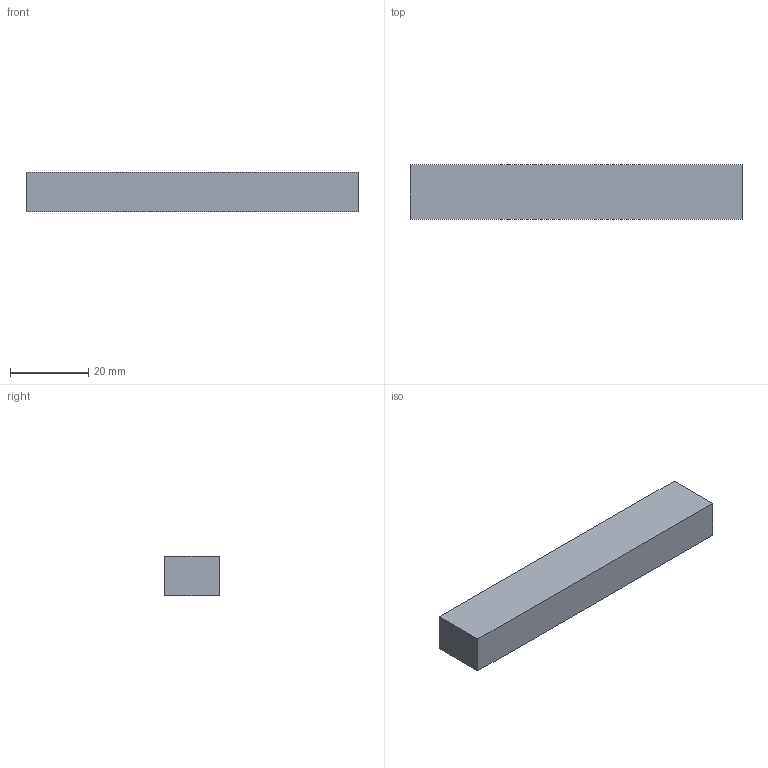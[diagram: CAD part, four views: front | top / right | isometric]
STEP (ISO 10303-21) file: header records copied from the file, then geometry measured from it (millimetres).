
FILE_DESCRIPTION(('Open CASCADE Model'),'2;1');
FILE_NAME('Open CASCADE Shape Model','2026-10-04T01:02:31',('Author'),( 'Open CASCADE'),'Open CASCADE STEP processor 8.0','Open CASCADE 8.0' ,'Unknown');
FILE_SCHEMA(('AUTOMOTIVE_DESIGN { 1 0 10303 214 1 1 1 1 }'));
Length unit declared in the file: millimetre
Products named in the file (1): Open CASCADE STEP translator 8.0 266
Bounding box: 85 x 14 x 10 mm (x, y, z)
Volume: 11900 mm3; surface area: 4360 mm2
Topology: 1 solids, 1 shells, 6 faces, 12 edges, 8 vertices
Faces by surface type: plane 6
Entity records: 322 total; most frequent: CARTESIAN_POINT 51, DIRECTION 50, LINE 36, VECTOR 36, ORIENTED_EDGE 24, PCURVE 24, DEFINITIONAL_REPRESENTATION 24, EDGE_CURVE 12
